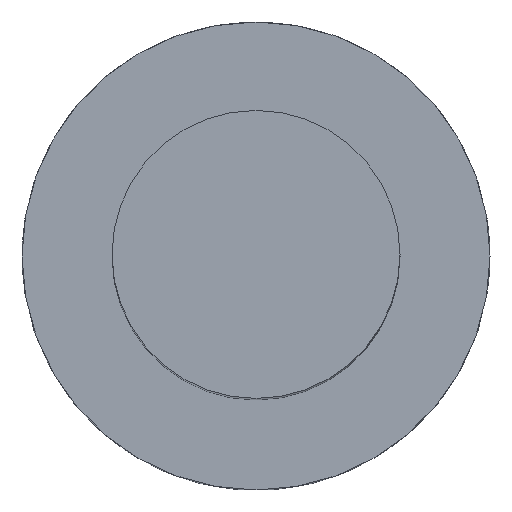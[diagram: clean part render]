
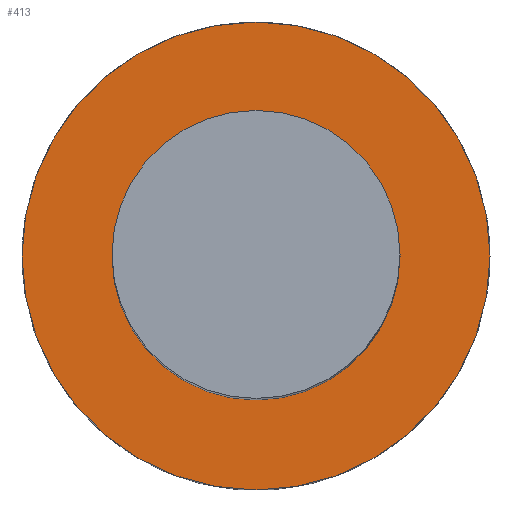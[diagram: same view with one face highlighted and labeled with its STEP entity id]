
A CAD part, top view. The second image highlights one B-rep face of the part: STEP entity #413.
In plain terms, the highlighted planar face has unit normal (0, 0, 1).
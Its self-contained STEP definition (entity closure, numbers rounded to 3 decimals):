
#24 = VERTEX_POINT('',#25);
#25 = CARTESIAN_POINT('',(26.5,19.,-15.));
#32 = CYLINDRICAL_SURFACE('',#33,6.5);
#33 = AXIS2_PLACEMENT_3D('',#34,#35,#36);
#34 = CARTESIAN_POINT('',(20.,19.,-20.));
#35 = DIRECTION('',(0.,0.,1.));
#36 = DIRECTION('',(1.,0.,-0.));
#51 = EDGE_CURVE('',#24,#24,#52,.T.);
#52 = SURFACE_CURVE('',#53,(#58,#65),.PCURVE_S1.);
#53 = CIRCLE('',#54,6.5);
#54 = AXIS2_PLACEMENT_3D('',#55,#56,#57);
#55 = CARTESIAN_POINT('',(20.,19.,-15.));
#56 = DIRECTION('',(0.,0.,1.));
#57 = DIRECTION('',(1.,0.,-0.));
#58 = PCURVE('',#32,#59);
#59 = DEFINITIONAL_REPRESENTATION('',(#60),#64);
#60 = LINE('',#61,#62);
#61 = CARTESIAN_POINT('',(0.,5.));
#62 = VECTOR('',#63,1.);
#63 = DIRECTION('',(1.,0.));
#64 = ( GEOMETRIC_REPRESENTATION_CONTEXT(2) 
PARAMETRIC_REPRESENTATION_CONTEXT() REPRESENTATION_CONTEXT('2D SPACE',''
  ) );
#65 = PCURVE('',#66,#71);
#66 = PLANE('',#67);
#67 = AXIS2_PLACEMENT_3D('',#68,#69,#70);
#68 = CARTESIAN_POINT('',(20.,19.,-15.));
#69 = DIRECTION('',(0.,0.,1.));
#70 = DIRECTION('',(1.,0.,-0.));
#71 = DEFINITIONAL_REPRESENTATION('',(#72),#76);
#72 = CIRCLE('',#73,6.5);
#73 = AXIS2_PLACEMENT_2D('',#74,#75);
#74 = CARTESIAN_POINT('',(0.,0.));
#75 = DIRECTION('',(1.,0.));
#76 = ( GEOMETRIC_REPRESENTATION_CONTEXT(2) 
PARAMETRIC_REPRESENTATION_CONTEXT() REPRESENTATION_CONTEXT('2D SPACE',''
  ) );
#413 = ADVANCED_FACE('',(#414,#417),#66,.T.);
#414 = FACE_BOUND('',#415,.T.);
#415 = EDGE_LOOP('',(#416));
#416 = ORIENTED_EDGE('',*,*,#51,.T.);
#417 = FACE_BOUND('',#418,.T.);
#418 = EDGE_LOOP('',(#419));
#419 = ORIENTED_EDGE('',*,*,#420,.F.);
#420 = EDGE_CURVE('',#421,#421,#423,.T.);
#421 = VERTEX_POINT('',#422);
#422 = CARTESIAN_POINT('',(24.,19.,-15.));
#423 = SURFACE_CURVE('',#424,(#429,#436),.PCURVE_S1.);
#424 = CIRCLE('',#425,4.);
#425 = AXIS2_PLACEMENT_3D('',#426,#427,#428);
#426 = CARTESIAN_POINT('',(20.,19.,-15.));
#427 = DIRECTION('',(0.,0.,1.));
#428 = DIRECTION('',(1.,0.,-0.));
#429 = PCURVE('',#66,#430);
#430 = DEFINITIONAL_REPRESENTATION('',(#431),#435);
#431 = CIRCLE('',#432,4.);
#432 = AXIS2_PLACEMENT_2D('',#433,#434);
#433 = CARTESIAN_POINT('',(0.,0.));
#434 = DIRECTION('',(1.,0.));
#435 = ( GEOMETRIC_REPRESENTATION_CONTEXT(2) 
PARAMETRIC_REPRESENTATION_CONTEXT() REPRESENTATION_CONTEXT('2D SPACE',''
  ) );
#436 = PCURVE('',#437,#442);
#437 = CYLINDRICAL_SURFACE('',#438,4.);
#438 = AXIS2_PLACEMENT_3D('',#439,#440,#441);
#439 = CARTESIAN_POINT('',(20.,19.,-15.));
#440 = DIRECTION('',(0.,0.,1.));
#441 = DIRECTION('',(1.,0.,-0.));
#442 = DEFINITIONAL_REPRESENTATION('',(#443),#447);
#443 = LINE('',#444,#445);
#444 = CARTESIAN_POINT('',(0.,0.));
#445 = VECTOR('',#446,1.);
#446 = DIRECTION('',(1.,0.));
#447 = ( GEOMETRIC_REPRESENTATION_CONTEXT(2) 
PARAMETRIC_REPRESENTATION_CONTEXT() REPRESENTATION_CONTEXT('2D SPACE',''
  ) );
